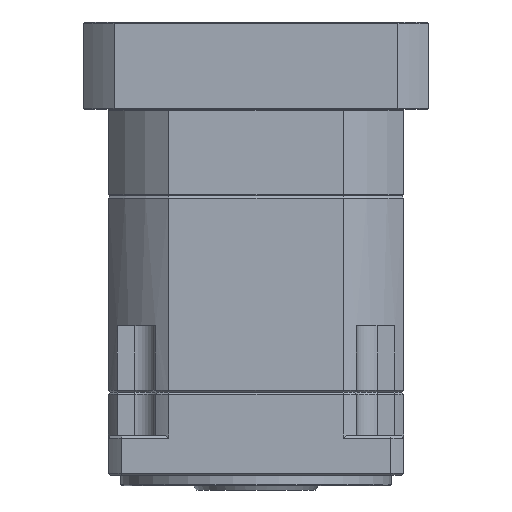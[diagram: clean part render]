
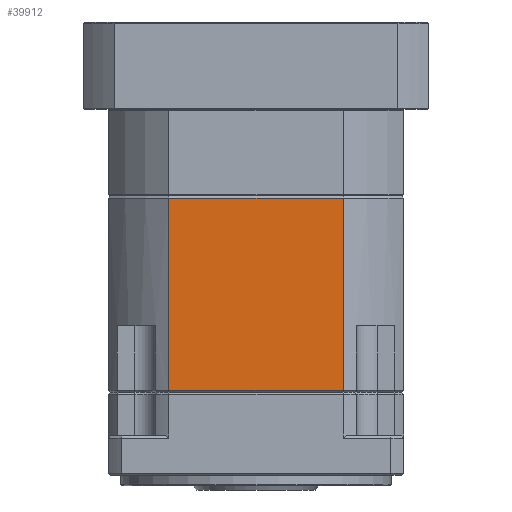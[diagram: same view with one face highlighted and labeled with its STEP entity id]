
A CAD part, front view. The second image highlights one B-rep face of the part: STEP entity #39912.
In plain terms, the highlighted planar face has unit normal (0, -1, 0).
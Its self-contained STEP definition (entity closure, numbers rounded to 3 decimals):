
#10317 = EDGE_CURVE ( 'NONE', #77873, #18317, #110974, .T. ) ;
#10614 = LINE ( 'NONE', #125151, #88650 ) ;
#16129 = VERTEX_POINT ( 'NONE', #47332 ) ;
#17727 = ORIENTED_EDGE ( 'NONE', *, *, #113304, .F. ) ;
#18317 = VERTEX_POINT ( 'NONE', #27529 ) ;
#19284 = DIRECTION ( 'NONE',  ( 0., 0., 1. ) ) ;
#22316 = ORIENTED_EDGE ( 'NONE', *, *, #93191, .F. ) ;
#22879 = LINE ( 'NONE', #111895, #51671 ) ;
#27529 = CARTESIAN_POINT ( 'NONE',  ( 39.563, -71.589, 271.25 ) ) ;
#30876 = FACE_OUTER_BOUND ( 'NONE', #48991, .T. ) ;
#32028 = DIRECTION ( 'NONE',  ( -1., 0., 0. ) ) ;
#39912 = ADVANCED_FACE ( 'NONE', ( #30876 ), #62692, .F. ) ;
#47332 = CARTESIAN_POINT ( 'NONE',  ( 39.563, -71.589, 178.75 ) ) ;
#48991 = EDGE_LOOP ( 'NONE', ( #17727, #22316, #74534, #115682 ) ) ;
#49942 = CARTESIAN_POINT ( 'NONE',  ( -44.467, -71.589, 271.25 ) ) ;
#51671 = VECTOR ( 'NONE', #19284, 1000. ) ;
#54501 = CARTESIAN_POINT ( 'NONE',  ( 39.563, -71.589, 507.929 ) ) ;
#57587 = CARTESIAN_POINT ( 'NONE',  ( -2.452, -71.589, 271.25 ) ) ;
#61124 = EDGE_CURVE ( 'NONE', #18317, #16129, #121204, .T. ) ;
#62692 = PLANE ( 'NONE',  #75413 ) ;
#64616 = DIRECTION ( 'NONE',  ( -1., 0., 0. ) ) ;
#68243 = DIRECTION ( 'NONE',  ( 1., 0., 0. ) ) ;
#72053 = DIRECTION ( 'NONE',  ( 0., 1., 0. ) ) ;
#74534 = ORIENTED_EDGE ( 'NONE', *, *, #61124, .F. ) ;
#75413 = AXIS2_PLACEMENT_3D ( 'NONE', #113057, #72053, #32028 ) ;
#77873 = VERTEX_POINT ( 'NONE', #49942 ) ;
#84333 = DIRECTION ( 'NONE',  ( 0., 0., -1. ) ) ;
#88650 = VECTOR ( 'NONE', #64616, 1000. ) ;
#93191 = EDGE_CURVE ( 'NONE', #16129, #96268, #10614, .T. ) ;
#94118 = VECTOR ( 'NONE', #84333, 1000. ) ;
#96268 = VERTEX_POINT ( 'NONE', #101190 ) ;
#101190 = CARTESIAN_POINT ( 'NONE',  ( -44.467, -71.589, 178.75 ) ) ;
#107755 = VECTOR ( 'NONE', #68243, 1000. ) ;
#110974 = LINE ( 'NONE', #57587, #107755 ) ;
#111895 = CARTESIAN_POINT ( 'NONE',  ( -44.467, -71.589, 272.25 ) ) ;
#113057 = CARTESIAN_POINT ( 'NONE',  ( 68.548, -71.589, 272.25 ) ) ;
#113304 = EDGE_CURVE ( 'NONE', #96268, #77873, #22879, .T. ) ;
#115682 = ORIENTED_EDGE ( 'NONE', *, *, #10317, .F. ) ;
#121204 = LINE ( 'NONE', #54501, #94118 ) ;
#125151 = CARTESIAN_POINT ( 'NONE',  ( 68.548, -71.589, 178.75 ) ) ;
